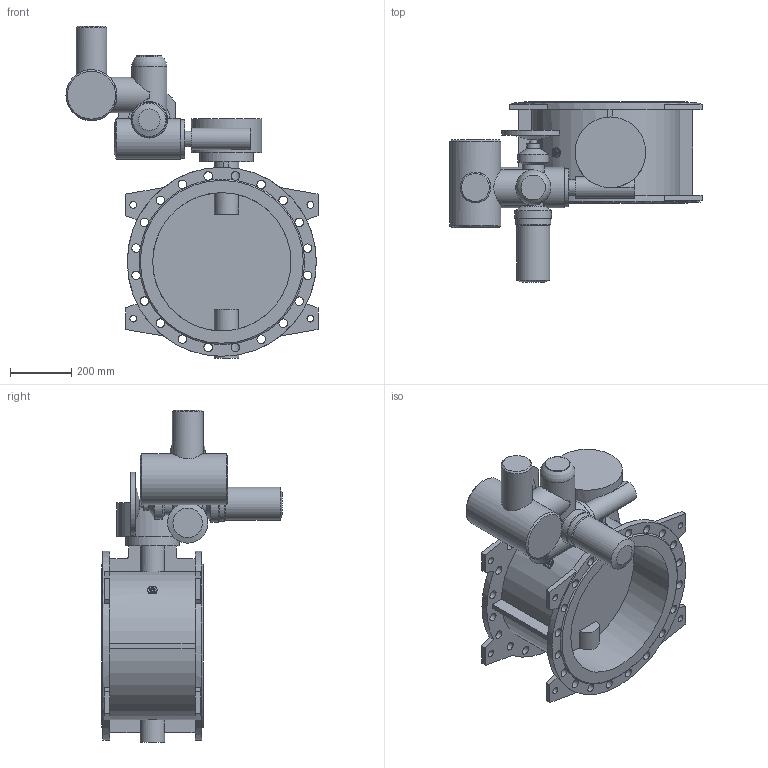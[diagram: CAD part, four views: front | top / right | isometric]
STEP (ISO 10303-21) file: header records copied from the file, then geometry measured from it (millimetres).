
FILE_DESCRIPTION(('STEP AP203'), '1');
FILE_NAME('Çàòâîð 023F.Z DN450 PN10 + ðåäóêòîð + ÌÒ903.À10 ñ ÁÓ', '', ('UNSPECIFIED'), ('UNSPECIFIED'), 'ASCON STEP Converter 1.6', 'ASCON Math Kernel', '');
FILE_SCHEMA(('CONFIG_CONTROL_DESIGN'));
Length unit declared in the file: millimetre
Bounding box: 820 x 588 x 1080 mm (x, y, z)
Volume: 44640294 mm3; surface area: 2834792.1 mm2
Topology: 1 solids, 1 shells, 234 faces, 691 edges, 454 vertices
Faces by surface type: plane 111, cylinder 109, cone 13, torus 1
Full cylindrical faces by diameter (mm): 8.5 x4, 12 x4, 14 x4, 18 x4, 22 x8, 24 x1, 28 x40, 42 x1, 50 x1, 66 x1, 70 x1, 72 x1, 80 x2, 100 x2, 108 x1, 114 x1, 115 x1, 116 x1, 119 x1, 125 x1, 132 x1, 166 x1, 175 x1, 230 x1, 450 x2, 615 x2
Entity records: 13643 total; most frequent: CARTESIAN_POINT 5588, DIRECTION 1292, ORIENTED_EDGE 1170, EDGE_CURVE 585, AXIS2_PLACEMENT_3D 549, VERTEX_POINT 453, EDGE_LOOP 430, CIRCLE 315
